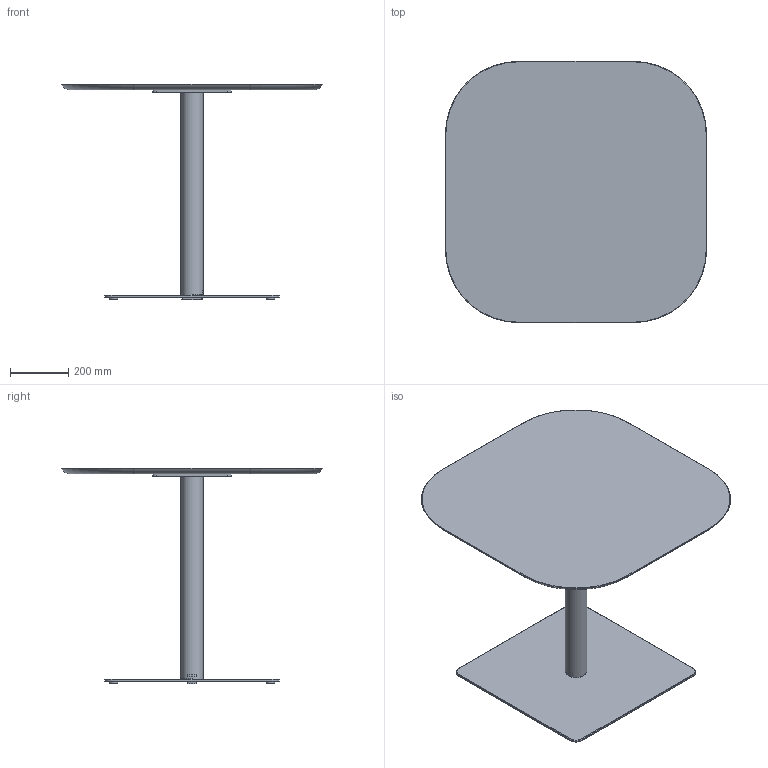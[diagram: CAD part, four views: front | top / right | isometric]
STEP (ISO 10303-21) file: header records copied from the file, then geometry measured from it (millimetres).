
FILE_DESCRIPTION( ('This file contains a STEP AP42 implementation' ,'as created by ZW3D STEP Interface translator.') ,'2;1' );
FILE_NAME( 'Henri - B_Carré - F2 - M3 - 900 x 900 x 750.stp' ,'24 912.1655 0', (''), ('ZWCAD Software Co.'), 'Version 1.0', 'ZW3D to STEP translator', '' );
FILE_SCHEMA(('AUTOMOTIVE_DESIGN { 1 0 10303 214 1 1 1 1 }'));
Length unit declared in the file: millimetre
Products named in the file (14): 0; PIED BISTROT PARAMETRIQUE_; COLONNE ACIER Ø76 V.02_; TUB-D076-02_; PLA-R76B-01_; CROIX ACIER 370 V.02_; CRX-X370-02_; SOCLE ACIER L 600x600 V.02_; SCL-R600-02_; PLA-R30A-01_; PLA-R30A-01; WUERTH 0276063020 Euro-screw 6.3x2 Verzinkt_; PLATEAU BISTROT PARAMETRIQUE_; insert_m6_13_
Assembly tree (22 placements, depth 3):
  0
  PIED BISTROT PARAMETRIQUE_
    COLONNE ACIER Ø76 V.02_
      TUB-D076-02_
      PLA-R76B-01_  x2
    CROIX ACIER 370 V.02_
      CRX-X370-02_
    SOCLE ACIER L 600x600 V.02_
      SCL-R600-02_
      PLA-R30A-01_
      PLA-R30A-01  x3
    WUERTH 0276063020 Euro-screw 6.3x2 Verzinkt_
    PLATEAU BISTROT PARAMETRIQUE_
      insert_m6_13_  x8
Bounding box: 900 x 900 x 744 mm (x, y, z)
Volume: 18451270 mm3; surface area: 2793863.4 mm2
Topology: 19 solids, 19 shells, 537 faces, 1310 edges, 822 vertices
Faces by surface type: plane 258, bspline 121, cylinder 102, cone 51, torus 5
Full cylindrical faces by diameter (mm): 4.88 x1, 6 x8, 6.3 x1, 8 x45, 12 x2, 14 x2, 30 x4, 72 x1, 76 x1
Entity records: 12318 total; most frequent: CARTESIAN_POINT 3396, ORIENTED_EDGE 1624, DIRECTION 1527, EDGE_CURVE 812, VERTEX_POINT 518, AXIS2_PLACEMENT_3D 511, VECTOR 505, LINE 505
